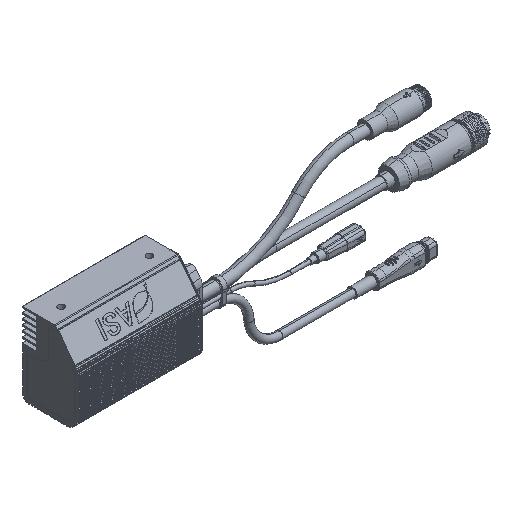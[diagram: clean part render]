
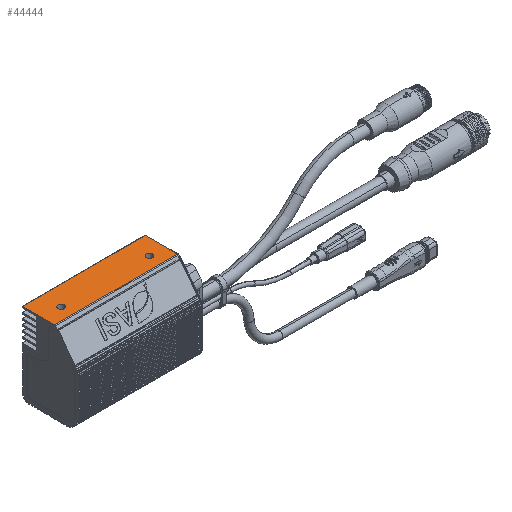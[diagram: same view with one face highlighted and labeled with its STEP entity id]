
A CAD part, isometric view. The second image highlights one B-rep face of the part: STEP entity #44444.
In plain terms, the highlighted planar face has unit normal (0, 0, 1) as drawn and (-1, 0, 0) by its records, which use the part's own axes.
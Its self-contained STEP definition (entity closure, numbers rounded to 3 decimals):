
#2155 = VERTEX_POINT ( 'NONE', #29183 ) ;
#3454 = VERTEX_POINT ( 'NONE', #72630 ) ;
#4967 = CARTESIAN_POINT ( 'NONE',  ( -50.9, 0., -38. ) ) ;
#5665 = ORIENTED_EDGE ( 'NONE', *, *, #68032, .F. ) ;
#5760 = DIRECTION ( 'NONE',  ( -1., 0., 0. ) ) ;
#6378 = CARTESIAN_POINT ( 'NONE',  ( -50.9, 11.759, 34.415 ) ) ;
#6703 = LINE ( 'NONE', #79146, #35997 ) ;
#8025 = DIRECTION ( 'NONE',  ( 0., 1., 0. ) ) ;
#8751 = CIRCLE ( 'NONE', #18639, 2.1 ) ;
#8994 = DIRECTION ( 'NONE',  ( 0., 0., 1. ) ) ;
#9596 = AXIS2_PLACEMENT_3D ( 'NONE', #4967, #43794, #13240 ) ;
#9707 = ORIENTED_EDGE ( 'NONE', *, *, #25054, .T. ) ;
#10646 = CARTESIAN_POINT ( 'NONE',  ( -50.9, 0., 45. ) ) ;
#11271 = ORIENTED_EDGE ( 'NONE', *, *, #71101, .T. ) ;
#11371 = ORIENTED_EDGE ( 'NONE', *, *, #27643, .F. ) ;
#12119 = CARTESIAN_POINT ( 'NONE',  ( -50.9, 11.759, 36.515 ) ) ;
#13240 = DIRECTION ( 'NONE',  ( 0., 0., -1. ) ) ;
#13516 = DIRECTION ( 'NONE',  ( 0., 0., 1. ) ) ;
#15201 = CARTESIAN_POINT ( 'NONE',  ( -50.9, 3.33, -38. ) ) ;
#16023 = DIRECTION ( 'NONE',  ( 0., 0., 1. ) ) ;
#17445 = VECTOR ( 'NONE', #8025, 1000. ) ;
#18402 = LINE ( 'NONE', #10646, #32144 ) ;
#18639 = AXIS2_PLACEMENT_3D ( 'NONE', #35566, #98704, #50048 ) ;
#18750 = ORIENTED_EDGE ( 'NONE', *, *, #65169, .F. ) ;
#19459 = CIRCLE ( 'NONE', #77297, 2.1 ) ;
#19983 = FACE_BOUND ( 'NONE', #41876, .T. ) ;
#20353 = ORIENTED_EDGE ( 'NONE', *, *, #35593, .F. ) ;
#20623 = VECTOR ( 'NONE', #8994, 1000. ) ;
#22130 = ORIENTED_EDGE ( 'NONE', *, *, #25302, .T. ) ;
#22535 = DIRECTION ( 'NONE',  ( -1., 0., 0. ) ) ;
#23923 = CARTESIAN_POINT ( 'NONE',  ( -50.9, 11.759, -23.485 ) ) ;
#25054 = EDGE_CURVE ( 'NONE', #50793, #76466, #18402, .T. ) ;
#25302 = EDGE_CURVE ( 'NONE', #2155, #50793, #72635, .T. ) ;
#27643 = EDGE_CURVE ( 'NONE', #59196, #33126, #19459, .T. ) ;
#29183 = CARTESIAN_POINT ( 'NONE',  ( -50.9, 3.33, -38.5 ) ) ;
#32144 = VECTOR ( 'NONE', #89831, 1000. ) ;
#33126 = VERTEX_POINT ( 'NONE', #23923 ) ;
#35566 = CARTESIAN_POINT ( 'NONE',  ( -50.9, 11.759, -25.585 ) ) ;
#35593 = EDGE_CURVE ( 'NONE', #2155, #3454, #86171, .T. ) ;
#35997 = VECTOR ( 'NONE', #70344, 1000. ) ;
#39035 = CARTESIAN_POINT ( 'NONE',  ( -50.9, 3.33, 45. ) ) ;
#39770 = EDGE_LOOP ( 'NONE', ( #84339, #5665 ) ) ;
#41876 = EDGE_LOOP ( 'NONE', ( #18750, #11371 ) ) ;
#43794 = DIRECTION ( 'NONE',  ( 1., 0., 0. ) ) ;
#43857 = EDGE_CURVE ( 'NONE', #84521, #94243, #97870, .T. ) ;
#44444 = ADVANCED_FACE ( 'NONE', ( #90922, #19983, #53055 ), #51540, .F. ) ;
#46321 = CARTESIAN_POINT ( 'NONE',  ( -50.9, 0., -38.5 ) ) ;
#48006 = EDGE_LOOP ( 'NONE', ( #20353, #22130, #9707, #11271 ) ) ;
#50048 = DIRECTION ( 'NONE',  ( 0., 0., 1. ) ) ;
#50793 = VERTEX_POINT ( 'NONE', #39035 ) ;
#51540 = PLANE ( 'NONE',  #9596 ) ;
#53055 = FACE_OUTER_BOUND ( 'NONE', #48006, .T. ) ;
#59196 = VERTEX_POINT ( 'NONE', #65175 ) ;
#61348 = CARTESIAN_POINT ( 'NONE',  ( -50.9, 11.759, -25.585 ) ) ;
#65169 = EDGE_CURVE ( 'NONE', #33126, #59196, #8751, .T. ) ;
#65175 = CARTESIAN_POINT ( 'NONE',  ( -50.9, 11.759, -27.685 ) ) ;
#66444 = AXIS2_PLACEMENT_3D ( 'NONE', #6378, #86955, #16023 ) ;
#68032 = EDGE_CURVE ( 'NONE', #94243, #84521, #99912, .T. ) ;
#68907 = CARTESIAN_POINT ( 'NONE',  ( -50.9, 11.759, 34.415 ) ) ;
#70344 = DIRECTION ( 'NONE',  ( 0., 0., -1. ) ) ;
#71101 = EDGE_CURVE ( 'NONE', #76466, #3454, #6703, .T. ) ;
#72630 = CARTESIAN_POINT ( 'NONE',  ( -50.9, 25.233, -38.5 ) ) ;
#72635 = LINE ( 'NONE', #15201, #20623 ) ;
#76466 = VERTEX_POINT ( 'NONE', #102054 ) ;
#77297 = AXIS2_PLACEMENT_3D ( 'NONE', #61348, #22535, #85199 ) ;
#79146 = CARTESIAN_POINT ( 'NONE',  ( -50.9, 25.233, 52.775 ) ) ;
#84339 = ORIENTED_EDGE ( 'NONE', *, *, #43857, .F. ) ;
#84521 = VERTEX_POINT ( 'NONE', #12119 ) ;
#85199 = DIRECTION ( 'NONE',  ( 0., 0., 1. ) ) ;
#86171 = LINE ( 'NONE', #46321, #17445 ) ;
#86478 = CARTESIAN_POINT ( 'NONE',  ( -50.9, 11.759, 32.315 ) ) ;
#86955 = DIRECTION ( 'NONE',  ( -1., 0., 0. ) ) ;
#89831 = DIRECTION ( 'NONE',  ( 0., 1., 0. ) ) ;
#90922 = FACE_BOUND ( 'NONE', #39770, .T. ) ;
#94243 = VERTEX_POINT ( 'NONE', #86478 ) ;
#97870 = CIRCLE ( 'NONE', #66444, 2.1 ) ;
#98292 = AXIS2_PLACEMENT_3D ( 'NONE', #68907, #5760, #13516 ) ;
#98704 = DIRECTION ( 'NONE',  ( -1., 0., 0. ) ) ;
#99912 = CIRCLE ( 'NONE', #98292, 2.1 ) ;
#102054 = CARTESIAN_POINT ( 'NONE',  ( -50.9, 25.233, 45. ) ) ;
